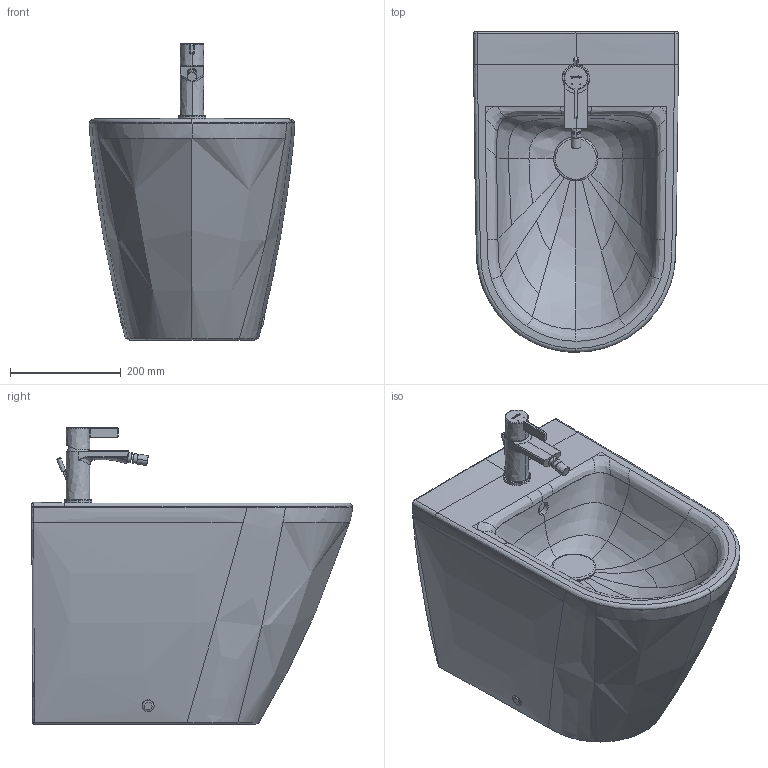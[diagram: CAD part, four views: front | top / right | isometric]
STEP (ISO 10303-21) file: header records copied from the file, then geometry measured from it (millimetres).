
FILE_DESCRIPTION(/* description */ (''),/* implementation_level */ '2;1');
FILE_NAME(/* name */ '229510',/* time_stamp */ '2021-06-21T09:47:14+02:00',/* author */ (''),/* organization */ (''),/* preprocessor_version */ 'ST-DEVELOPER v15',/* originating_system */ '',/* authorisation */ '');
FILE_SCHEMA (('AUTOMOTIVE_DESIGN'));
Length unit declared in the file: millimetre
Products named in the file (1): Document
Bounding box: 371.26 x 579.99 x 536.13 mm (x, y, z)
Volume: 33607348.6 mm3; surface area: 1309685.5 mm2
Topology: 6 solids, 12 shells, 658 faces, 1609 edges, 983 vertices
Faces by surface type: bspline 511, plane 147
Entity records: 74712 total; most frequent: CARTESIAN_POINT 65037, ORIENTED_EDGE 3149, EDGE_CURVE 1596, B_SPLINE_CURVE_WITH_KNOTS 1100, VERTEX_POINT 983, EDGE_LOOP 706, ADVANCED_FACE 658, FACE_OUTER_BOUND 658
